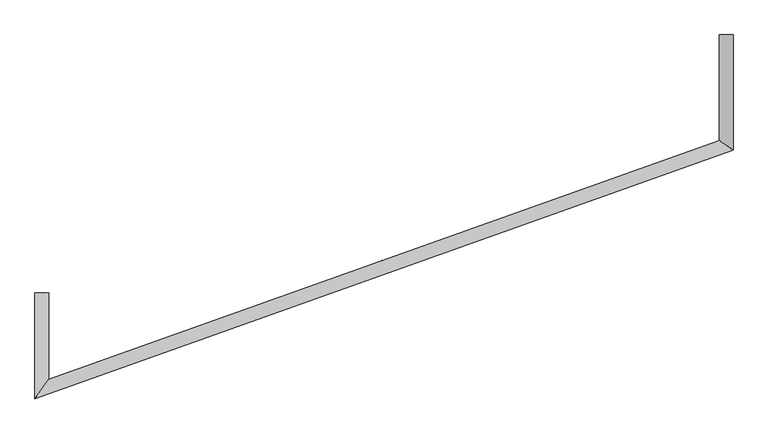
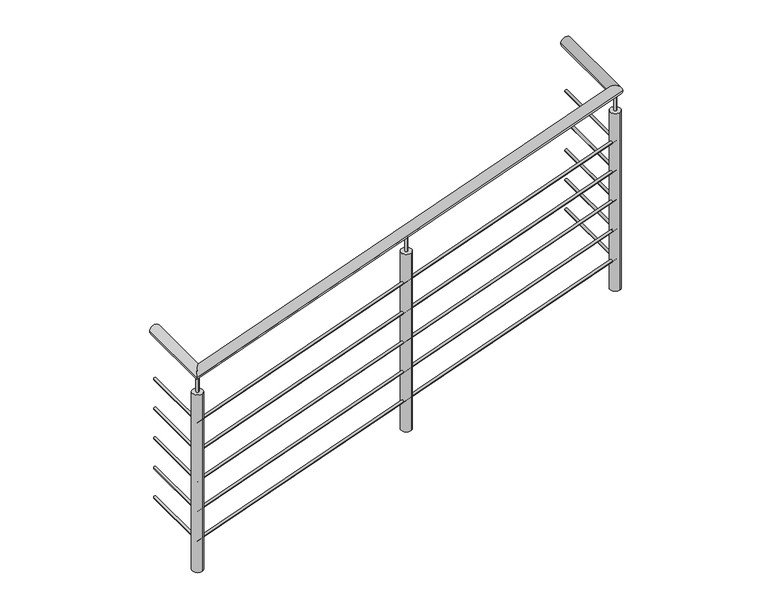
"""IFC4 building model written with IfcOpenShell, lengths in millimetres: railing geometry, Barandal general 2 sin inicio."""

from ifc_helpers import new_model, si_unit, point, frame, frame_2d, origin, place, context, project, spatial, circle_curve, ellipse_curve, trimmed, segment, composite_curve, outline, extrude, source, transform, mapped, element, save
from ifc_brep_helpers import plane_surface, cylinder_surface, advanced_brep


def railing_e85b9a55(model_context):
    return source(origin(), model_context, "Body", "SolidModel", [
        advanced_brep(
        [(39004.1057586, 22857.0021633, 10000.0), (39054.9057586, 22857.0021633, 10000.0), (39054.9057586, 22431.9822302, 10000.0), (39004.1057586, 22467.808589, 10000.0), (36484.1300226, 21515.8771439, 10000.0), (36534.9300226, 21587.9090245, 10000.0), (36534.9300226, 21905.5468038, 10000.0), (36484.1300226, 21905.5468038, 10000.0)],
        [
            (0, 1, circle_curve(frame((39029.5057586, 22857.0021633, 10000.0), z_axis=(0.0, 1.0, 0.0), x_axis=(1.0, 0.0, 0.0)), 25.4)),
            (1, 0, circle_curve(frame((39029.5057586, 22857.0021633, 10000.0), z_axis=(0.0, 1.0, 0.0), x_axis=(1.0, 0.0, 0.0)), 25.4)),
            (1, 2),
            (2, 3, ellipse_curve(frame((39029.5057586, 22449.8954096, 10000.0), z_axis=(0.5763345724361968, 0.8172138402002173, 0.0), x_axis=(-0.8172138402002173, 0.5763345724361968, 0.0)), 31.0812161, 25.4)),
            (3, 0),
            (3, 2, ellipse_curve(frame((39029.5057586, 22449.8954096, 10000.0), z_axis=(0.5763345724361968, 0.8172138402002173, 0.0), x_axis=(-0.8172138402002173, 0.5763345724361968, 0.0)), 31.0812161, 25.4)),
            (2, 4),
            (4, 5, ellipse_curve(frame((36509.5300226, 21551.8930842, 10000.0), z_axis=(0.8172138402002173, -0.5763345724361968, 0.0), x_axis=(0.5763345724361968, 0.8172138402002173, 0.0)), 44.071623, 25.4)),
            (5, 3),
            (5, 4, ellipse_curve(frame((36509.5300226, 21551.8930842, 10000.0), z_axis=(0.8172138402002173, -0.5763345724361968, 0.0), x_axis=(0.5763345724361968, 0.8172138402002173, 0.0)), 44.071623, 25.4)),
            (6, 7, circle_curve(frame((36509.5300226, 21905.5468038, 10000.0), z_axis=(0.0, 1.0, 0.0), x_axis=(-1.0, 0.0, 0.0)), 25.4)),
            (7, 6, circle_curve(frame((36509.5300226, 21905.5468038, 10000.0), z_axis=(0.0, 1.0, 0.0), x_axis=(-1.0, 0.0, 0.0)), 25.4)),
            (4, 7),
            (6, 5),
        ],
        [
            plane_surface(frame((39029.5057586, 22857.0021633, 10000.0), z_axis=(0.0, 1.0, 0.0), x_axis=(0.0, 0.0, -1.0))),
            cylinder_surface(frame((39029.5057586, 22857.0021633, 10000.0), z_axis=(0.0, 1.0, 0.0), x_axis=(1.0, 0.0, 0.0)), 25.4),
            cylinder_surface(frame((39029.5057586, 22449.8954096, 10000.0), z_axis=(0.9419771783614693, 0.33567692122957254, 0.0), x_axis=(0.33567692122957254, -0.9419771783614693, 0.0)), 25.4),
            plane_surface(frame((36509.5300226, 21905.5468038, 10000.0), z_axis=(0.0, 1.0, 0.0), x_axis=(0.0, 0.0, 1.0))),
            cylinder_surface(frame((36509.5300226, 21551.8930842, 10000.0), z_axis=(0.0, -1.0, 0.0), x_axis=(-1.0, 0.0, 0.0)), 25.4),
        ],
        [
            (0, [[1, 2]]),
            (1, [[-2, 3, 4, 5]]),
            (1, [[-1, -5, 6, -3]]),
            (2, [[-4, 7, 8, 9]]),
            (2, [[-6, -9, 10, -7]]),
            (3, [[11, 12]]),
            (4, [[-8, 13, -11, 14]]),
            (4, [[-10, -14, -12, -13]]),
        ],
    ),
        advanced_brep(
        [(39023.1557586, 22857.0021633, 9750.0), (39035.8557586, 22857.0021633, 9750.0), (39035.8557586, 22445.4171147, 9750.0), (39023.1557586, 22454.3737044, 9750.0), (36503.1800226, 21542.8890991, 9750.0), (36515.8800226, 21560.8970693, 9750.0), (36515.8800226, 21905.5468038, 9750.0), (36503.1800226, 21905.5468038, 9750.0)],
        [
            (0, 1, circle_curve(frame((39029.5057586, 22857.0021633, 9750.0), z_axis=(0.0, 1.0, 0.0), x_axis=(1.0, 0.0, 0.0)), 6.35)),
            (1, 0, circle_curve(frame((39029.5057586, 22857.0021633, 9750.0), z_axis=(0.0, 1.0, 0.0), x_axis=(1.0, 0.0, 0.0)), 6.35)),
            (1, 2),
            (2, 3, ellipse_curve(frame((39029.5057586, 22449.8954096, 9750.0), z_axis=(0.5763345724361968, 0.8172138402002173, 0.0), x_axis=(-0.8172138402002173, 0.5763345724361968, 0.0)), 7.770304, 6.35)),
            (3, 0),
            (3, 2, ellipse_curve(frame((39029.5057586, 22449.8954096, 9750.0), z_axis=(0.5763345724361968, 0.8172138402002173, 0.0), x_axis=(-0.8172138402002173, 0.5763345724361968, 0.0)), 7.770304, 6.35)),
            (2, 4),
            (4, 5, ellipse_curve(frame((36509.5300226, 21551.8930842, 9750.0), z_axis=(0.8172138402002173, -0.5763345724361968, 0.0), x_axis=(0.5763345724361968, 0.8172138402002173, 0.0)), 11.0179058, 6.35)),
            (5, 3),
            (5, 4, ellipse_curve(frame((36509.5300226, 21551.8930842, 9750.0), z_axis=(0.8172138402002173, -0.5763345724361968, 0.0), x_axis=(0.5763345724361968, 0.8172138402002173, 0.0)), 11.0179058, 6.35)),
            (6, 7, circle_curve(frame((36509.5300226, 21905.5468038, 9750.0), z_axis=(0.0, 1.0, 0.0), x_axis=(-1.0, 0.0, 0.0)), 6.35)),
            (7, 6, circle_curve(frame((36509.5300226, 21905.5468038, 9750.0), z_axis=(0.0, 1.0, 0.0), x_axis=(-1.0, 0.0, 0.0)), 6.35)),
            (4, 7),
            (6, 5),
        ],
        [
            plane_surface(frame((39029.5057586, 22857.0021633, 9750.0), z_axis=(0.0, 1.0, 0.0), x_axis=(0.0, 0.0, -1.0))),
            cylinder_surface(frame((39029.5057586, 22857.0021633, 9750.0), z_axis=(0.0, 1.0, 0.0), x_axis=(1.0, 0.0, 0.0)), 6.35),
            cylinder_surface(frame((39029.5057586, 22449.8954096, 9750.0), z_axis=(0.9419771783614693, 0.33567692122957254, 0.0), x_axis=(0.33567692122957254, -0.9419771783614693, 0.0)), 6.35),
            plane_surface(frame((36509.5300226, 21905.5468038, 9750.0), z_axis=(0.0, 1.0, 0.0), x_axis=(0.0, 0.0, 1.0))),
            cylinder_surface(frame((36509.5300226, 21551.8930842, 9750.0), z_axis=(0.0, -1.0, 0.0), x_axis=(-1.0, 0.0, 0.0)), 6.35),
        ],
        [
            (0, [[1, 2]]),
            (1, [[-2, 3, 4, 5]]),
            (1, [[-1, -5, 6, -3]]),
            (2, [[-4, 7, 8, 9]]),
            (2, [[-6, -9, 10, -7]]),
            (3, [[11, 12]]),
            (4, [[-8, 13, -11, 14]]),
            (4, [[-10, -14, -12, -13]]),
        ],
    ),
        advanced_brep(
        [(39023.1557586, 22857.0021633, 9600.0), (39035.8557586, 22857.0021633, 9600.0), (39035.8557586, 22445.4171147, 9600.0), (39023.1557586, 22454.3737044, 9600.0), (36503.1800226, 21542.8890991, 9600.0), (36515.8800226, 21560.8970693, 9600.0), (36515.8800226, 21905.5468038, 9600.0), (36503.1800226, 21905.5468038, 9600.0)],
        [
            (0, 1, circle_curve(frame((39029.5057586, 22857.0021633, 9600.0), z_axis=(0.0, 1.0, 0.0), x_axis=(1.0, 0.0, 0.0)), 6.35)),
            (1, 0, circle_curve(frame((39029.5057586, 22857.0021633, 9600.0), z_axis=(0.0, 1.0, 0.0), x_axis=(1.0, 0.0, 0.0)), 6.35)),
            (1, 2),
            (2, 3, ellipse_curve(frame((39029.5057586, 22449.8954096, 9600.0), z_axis=(0.5763345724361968, 0.8172138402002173, 0.0), x_axis=(-0.8172138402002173, 0.5763345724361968, 0.0)), 7.770304, 6.35)),
            (3, 0),
            (3, 2, ellipse_curve(frame((39029.5057586, 22449.8954096, 9600.0), z_axis=(0.5763345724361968, 0.8172138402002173, 0.0), x_axis=(-0.8172138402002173, 0.5763345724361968, 0.0)), 7.770304, 6.35)),
            (2, 4),
            (4, 5, ellipse_curve(frame((36509.5300226, 21551.8930842, 9600.0), z_axis=(0.8172138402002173, -0.5763345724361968, 0.0), x_axis=(0.5763345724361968, 0.8172138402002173, 0.0)), 11.0179058, 6.35)),
            (5, 3),
            (5, 4, ellipse_curve(frame((36509.5300226, 21551.8930842, 9600.0), z_axis=(0.8172138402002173, -0.5763345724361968, 0.0), x_axis=(0.5763345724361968, 0.8172138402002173, 0.0)), 11.0179058, 6.35)),
            (6, 7, circle_curve(frame((36509.5300226, 21905.5468038, 9600.0), z_axis=(0.0, 1.0, 0.0), x_axis=(-1.0, 0.0, 0.0)), 6.35)),
            (7, 6, circle_curve(frame((36509.5300226, 21905.5468038, 9600.0), z_axis=(0.0, 1.0, 0.0), x_axis=(-1.0, 0.0, 0.0)), 6.35)),
            (4, 7),
            (6, 5),
        ],
        [
            plane_surface(frame((39029.5057586, 22857.0021633, 9600.0), z_axis=(0.0, 1.0, 0.0), x_axis=(0.0, 0.0, -1.0))),
            cylinder_surface(frame((39029.5057586, 22857.0021633, 9600.0), z_axis=(0.0, 1.0, 0.0), x_axis=(1.0, 0.0, 0.0)), 6.35),
            cylinder_surface(frame((39029.5057586, 22449.8954096, 9600.0), z_axis=(0.9419771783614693, 0.33567692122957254, 0.0), x_axis=(0.33567692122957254, -0.9419771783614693, 0.0)), 6.35),
            plane_surface(frame((36509.5300226, 21905.5468038, 9600.0), z_axis=(0.0, 1.0, 0.0), x_axis=(0.0, 0.0, 1.0))),
            cylinder_surface(frame((36509.5300226, 21551.8930842, 9600.0), z_axis=(0.0, -1.0, 0.0), x_axis=(-1.0, 0.0, 0.0)), 6.35),
        ],
        [
            (0, [[1, 2]]),
            (1, [[-2, 3, 4, 5]]),
            (1, [[-1, -5, 6, -3]]),
            (2, [[-4, 7, 8, 9]]),
            (2, [[-6, -9, 10, -7]]),
            (3, [[11, 12]]),
            (4, [[-8, 13, -11, 14]]),
            (4, [[-10, -14, -12, -13]]),
        ],
    ),
        advanced_brep(
        [(39023.1557586, 22857.0021633, 9450.0), (39035.8557586, 22857.0021633, 9450.0), (39035.8557586, 22445.4171147, 9450.0), (39023.1557586, 22454.3737044, 9450.0), (36503.1800226, 21542.8890991, 9450.0), (36515.8800226, 21560.8970693, 9450.0), (36515.8800226, 21905.5468038, 9450.0), (36503.1800226, 21905.5468038, 9450.0)],
        [
            (0, 1, circle_curve(frame((39029.5057586, 22857.0021633, 9450.0), z_axis=(0.0, 1.0, 0.0), x_axis=(1.0, 0.0, 0.0)), 6.35)),
            (1, 0, circle_curve(frame((39029.5057586, 22857.0021633, 9450.0), z_axis=(0.0, 1.0, 0.0), x_axis=(1.0, 0.0, 0.0)), 6.35)),
            (1, 2),
            (2, 3, ellipse_curve(frame((39029.5057586, 22449.8954096, 9450.0), z_axis=(0.5763345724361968, 0.8172138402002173, 0.0), x_axis=(-0.8172138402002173, 0.5763345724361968, 0.0)), 7.770304, 6.35)),
            (3, 0),
            (3, 2, ellipse_curve(frame((39029.5057586, 22449.8954096, 9450.0), z_axis=(0.5763345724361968, 0.8172138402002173, 0.0), x_axis=(-0.8172138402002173, 0.5763345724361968, 0.0)), 7.770304, 6.35)),
            (2, 4),
            (4, 5, ellipse_curve(frame((36509.5300226, 21551.8930842, 9450.0), z_axis=(0.8172138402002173, -0.5763345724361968, 0.0), x_axis=(0.5763345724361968, 0.8172138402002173, 0.0)), 11.0179058, 6.35)),
            (5, 3),
            (5, 4, ellipse_curve(frame((36509.5300226, 21551.8930842, 9450.0), z_axis=(0.8172138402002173, -0.5763345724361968, 0.0), x_axis=(0.5763345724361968, 0.8172138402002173, 0.0)), 11.0179058, 6.35)),
            (6, 7, circle_curve(frame((36509.5300226, 21905.5468038, 9450.0), z_axis=(0.0, 1.0, 0.0), x_axis=(-1.0, 0.0, 0.0)), 6.35)),
            (7, 6, circle_curve(frame((36509.5300226, 21905.5468038, 9450.0), z_axis=(0.0, 1.0, 0.0), x_axis=(-1.0, 0.0, 0.0)), 6.35)),
            (4, 7),
            (6, 5),
        ],
        [
            plane_surface(frame((39029.5057586, 22857.0021633, 9450.0), z_axis=(0.0, 1.0, 0.0), x_axis=(0.0, 0.0, -1.0))),
            cylinder_surface(frame((39029.5057586, 22857.0021633, 9450.0), z_axis=(0.0, 1.0, 0.0), x_axis=(1.0, 0.0, 0.0)), 6.35),
            cylinder_surface(frame((39029.5057586, 22449.8954096, 9450.0), z_axis=(0.9419771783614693, 0.33567692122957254, 0.0), x_axis=(0.33567692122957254, -0.9419771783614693, 0.0)), 6.35),
            plane_surface(frame((36509.5300226, 21905.5468038, 9450.0), z_axis=(0.0, 1.0, 0.0), x_axis=(0.0, 0.0, 1.0))),
            cylinder_surface(frame((36509.5300226, 21551.8930842, 9450.0), z_axis=(0.0, -1.0, 0.0), x_axis=(-1.0, 0.0, 0.0)), 6.35),
        ],
        [
            (0, [[1, 2]]),
            (1, [[-2, 3, 4, 5]]),
            (1, [[-1, -5, 6, -3]]),
            (2, [[-4, 7, 8, 9]]),
            (2, [[-6, -9, 10, -7]]),
            (3, [[11, 12]]),
            (4, [[-8, 13, -11, 14]]),
            (4, [[-10, -14, -12, -13]]),
        ],
    ),
        advanced_brep(
        [(39023.1557586, 22857.0021633, 9300.0), (39035.8557586, 22857.0021633, 9300.0), (39035.8557586, 22445.4171147, 9300.0), (39023.1557586, 22454.3737044, 9300.0), (36503.1800226, 21542.8890991, 9300.0), (36515.8800226, 21560.8970693, 9300.0), (36515.8800226, 21905.5468038, 9300.0), (36503.1800226, 21905.5468038, 9300.0)],
        [
            (0, 1, circle_curve(frame((39029.5057586, 22857.0021633, 9300.0), z_axis=(0.0, 1.0, 0.0), x_axis=(1.0, 0.0, 0.0)), 6.35)),
            (1, 0, circle_curve(frame((39029.5057586, 22857.0021633, 9300.0), z_axis=(0.0, 1.0, 0.0), x_axis=(1.0, 0.0, 0.0)), 6.35)),
            (1, 2),
            (2, 3, ellipse_curve(frame((39029.5057586, 22449.8954096, 9300.0), z_axis=(0.5763345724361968, 0.8172138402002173, 0.0), x_axis=(-0.8172138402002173, 0.5763345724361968, 0.0)), 7.770304, 6.35)),
            (3, 0),
            (3, 2, ellipse_curve(frame((39029.5057586, 22449.8954096, 9300.0), z_axis=(0.5763345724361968, 0.8172138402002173, 0.0), x_axis=(-0.8172138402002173, 0.5763345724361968, 0.0)), 7.770304, 6.35)),
            (2, 4),
            (4, 5, ellipse_curve(frame((36509.5300226, 21551.8930842, 9300.0), z_axis=(0.8172138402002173, -0.5763345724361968, 0.0), x_axis=(0.5763345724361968, 0.8172138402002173, 0.0)), 11.0179058, 6.35)),
            (5, 3),
            (5, 4, ellipse_curve(frame((36509.5300226, 21551.8930842, 9300.0), z_axis=(0.8172138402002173, -0.5763345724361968, 0.0), x_axis=(0.5763345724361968, 0.8172138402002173, 0.0)), 11.0179058, 6.35)),
            (6, 7, circle_curve(frame((36509.5300226, 21905.5468038, 9300.0), z_axis=(0.0, 1.0, 0.0), x_axis=(-1.0, 0.0, 0.0)), 6.35)),
            (7, 6, circle_curve(frame((36509.5300226, 21905.5468038, 9300.0), z_axis=(0.0, 1.0, 0.0), x_axis=(-1.0, 0.0, 0.0)), 6.35)),
            (4, 7),
            (6, 5),
        ],
        [
            plane_surface(frame((39029.5057586, 22857.0021633, 9300.0), z_axis=(0.0, 1.0, 0.0), x_axis=(0.0, 0.0, -1.0))),
            cylinder_surface(frame((39029.5057586, 22857.0021633, 9300.0), z_axis=(0.0, 1.0, 0.0), x_axis=(1.0, 0.0, 0.0)), 6.35),
            cylinder_surface(frame((39029.5057586, 22449.8954096, 9300.0), z_axis=(0.9419771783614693, 0.33567692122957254, 0.0), x_axis=(0.33567692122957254, -0.9419771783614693, 0.0)), 6.35),
            plane_surface(frame((36509.5300226, 21905.5468038, 9300.0), z_axis=(0.0, 1.0, 0.0), x_axis=(0.0, 0.0, 1.0))),
            cylinder_surface(frame((36509.5300226, 21551.8930842, 9300.0), z_axis=(0.0, -1.0, 0.0), x_axis=(-1.0, 0.0, 0.0)), 6.35),
        ],
        [
            (0, [[1, 2]]),
            (1, [[-2, 3, 4, 5]]),
            (1, [[-1, -5, 6, -3]]),
            (2, [[-4, 7, 8, 9]]),
            (2, [[-6, -9, 10, -7]]),
            (3, [[11, 12]]),
            (4, [[-8, 13, -11, 14]]),
            (4, [[-10, -14, -12, -13]]),
        ],
    ),
        advanced_brep(
        [(39023.1557586, 22857.0021633, 9150.0), (39035.8557586, 22857.0021633, 9150.0), (39035.8557586, 22445.4171147, 9150.0), (39023.1557586, 22454.3737044, 9150.0), (36503.1800226, 21542.8890991, 9150.0), (36515.8800226, 21560.8970693, 9150.0), (36515.8800226, 21905.5468038, 9150.0), (36503.1800226, 21905.5468038, 9150.0)],
        [
            (0, 1, circle_curve(frame((39029.5057586, 22857.0021633, 9150.0), z_axis=(0.0, 1.0, 0.0), x_axis=(1.0, 0.0, 0.0)), 6.35)),
            (1, 0, circle_curve(frame((39029.5057586, 22857.0021633, 9150.0), z_axis=(0.0, 1.0, 0.0), x_axis=(1.0, 0.0, 0.0)), 6.35)),
            (1, 2),
            (2, 3, ellipse_curve(frame((39029.5057586, 22449.8954096, 9150.0), z_axis=(0.5763345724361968, 0.8172138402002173, 0.0), x_axis=(-0.8172138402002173, 0.5763345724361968, 0.0)), 7.770304, 6.35)),
            (3, 0),
            (3, 2, ellipse_curve(frame((39029.5057586, 22449.8954096, 9150.0), z_axis=(0.5763345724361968, 0.8172138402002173, 0.0), x_axis=(-0.8172138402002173, 0.5763345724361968, 0.0)), 7.770304, 6.35)),
            (2, 4),
            (4, 5, ellipse_curve(frame((36509.5300226, 21551.8930842, 9150.0), z_axis=(0.8172138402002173, -0.5763345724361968, 0.0), x_axis=(0.5763345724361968, 0.8172138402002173, 0.0)), 11.0179058, 6.35)),
            (5, 3),
            (5, 4, ellipse_curve(frame((36509.5300226, 21551.8930842, 9150.0), z_axis=(0.8172138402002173, -0.5763345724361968, 0.0), x_axis=(0.5763345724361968, 0.8172138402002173, 0.0)), 11.0179058, 6.35)),
            (6, 7, circle_curve(frame((36509.5300226, 21905.5468038, 9150.0), z_axis=(0.0, 1.0, 0.0), x_axis=(-1.0, 0.0, 0.0)), 6.35)),
            (7, 6, circle_curve(frame((36509.5300226, 21905.5468038, 9150.0), z_axis=(0.0, 1.0, 0.0), x_axis=(-1.0, 0.0, 0.0)), 6.35)),
            (4, 7),
            (6, 5),
        ],
        [
            plane_surface(frame((39029.5057586, 22857.0021633, 9150.0), z_axis=(0.0, 1.0, 0.0), x_axis=(0.0, 0.0, -1.0))),
            cylinder_surface(frame((39029.5057586, 22857.0021633, 9150.0), z_axis=(0.0, 1.0, 0.0), x_axis=(1.0, 0.0, 0.0)), 6.35),
            cylinder_surface(frame((39029.5057586, 22449.8954096, 9150.0), z_axis=(0.9419771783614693, 0.33567692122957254, 0.0), x_axis=(0.33567692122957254, -0.9419771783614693, 0.0)), 6.35),
            plane_surface(frame((36509.5300226, 21905.5468038, 9150.0), z_axis=(0.0, 1.0, 0.0), x_axis=(0.0, 0.0, 1.0))),
            cylinder_surface(frame((36509.5300226, 21551.8930842, 9150.0), z_axis=(0.0, -1.0, 0.0), x_axis=(-1.0, 0.0, 0.0)), 6.35),
        ],
        [
            (0, [[1, 2]]),
            (1, [[-2, 3, 4, 5]]),
            (1, [[-1, -5, 6, -3]]),
            (2, [[-4, 7, 8, 9]]),
            (2, [[-6, -9, 10, -7]]),
            (3, [[11, 12]]),
            (4, [[-8, 13, -11, 14]]),
            (4, [[-10, -14, -12, -13]]),
        ],
    ),
        extrude(outline(composite_curve([segment(trimmed(circle_curve(frame_2d((36509.5300226, 21551.8930842)), 6.35), [point((36511.661571, 21545.9115291))], [point((36507.3984741, 21557.8746393))], False, "CARTESIAN"), True, "CONTINUOUS"), segment(trimmed(circle_curve(frame_2d((36509.5300226, 21551.8930842)), 6.35), [point((36507.3984741, 21557.8746393))], [point((36511.661571, 21545.9115291))], False, "CARTESIAN"), True, "CONTINUOUS")], self_intersect=False)), frame((0.0, 0.0, 9899.6), z_axis=(0.0, 0.0, 1.0), x_axis=(1.0, 0.0, 0.0)), (0.0, 0.0, 1.0), 75.0),
        extrude(outline(composite_curve([segment(trimmed(circle_curve(frame_2d((36509.5300226, 21551.8930842)), 25.4), [point((36518.0562164, 21527.9668639))], [point((36501.0038288, 21575.8193045))], False, "CARTESIAN"), True, "CONTINUOUS"), segment(trimmed(circle_curve(frame_2d((36509.5300226, 21551.8930842)), 25.4), [point((36501.0038288, 21575.8193045))], [point((36518.0562164, 21527.9668639))], False, "CARTESIAN"), True, "CONTINUOUS")], self_intersect=False)), frame((0.0, 0.0, 9000.0), z_axis=(0.0, 0.0, 1.0), x_axis=(1.0, 0.0, 0.0)), (0.0, 0.0, 1.0), 899.6),
        extrude(outline(composite_curve([segment(trimmed(circle_curve(frame_2d((37769.5178906, 22000.8942469)), 6.35), [point((37771.649439, 21994.9126918))], [point((37767.3863421, 22006.875802))], False, "CARTESIAN"), True, "CONTINUOUS"), segment(trimmed(circle_curve(frame_2d((37769.5178906, 22000.8942469)), 6.35), [point((37767.3863421, 22006.875802))], [point((37771.649439, 21994.9126918))], False, "CARTESIAN"), True, "CONTINUOUS")], self_intersect=False)), frame((0.0, 0.0, 9899.6), z_axis=(0.0, 0.0, 1.0), x_axis=(1.0, 0.0, 0.0)), (0.0, 0.0, 1.0), 75.0),
        extrude(outline(composite_curve([segment(trimmed(circle_curve(frame_2d((37769.5178906, 22000.8942469)), 25.4), [point((37778.0440844, 21976.9680266))], [point((37760.9916968, 22024.8204672))], False, "CARTESIAN"), True, "CONTINUOUS"), segment(trimmed(circle_curve(frame_2d((37769.5178906, 22000.8942469)), 25.4), [point((37760.9916968, 22024.8204672))], [point((37778.0440844, 21976.9680266))], False, "CARTESIAN"), True, "CONTINUOUS")], self_intersect=False)), frame((0.0, 0.0, 9000.0), z_axis=(0.0, 0.0, 1.0), x_axis=(1.0, 0.0, 0.0)), (0.0, 0.0, 1.0), 899.6),
        extrude(outline(composite_curve([segment(trimmed(circle_curve(frame_2d((39029.5057586, 22449.8954096)), 6.35), [point((39031.637307, 22443.9138545))], [point((39027.3742101, 22455.8769647))], False, "CARTESIAN"), True, "CONTINUOUS"), segment(trimmed(circle_curve(frame_2d((39029.5057586, 22449.8954096)), 6.35), [point((39027.3742101, 22455.8769647))], [point((39031.637307, 22443.9138545))], False, "CARTESIAN"), True, "CONTINUOUS")], self_intersect=False)), frame((0.0, 0.0, 9899.6), z_axis=(0.0, 0.0, 1.0), x_axis=(1.0, 0.0, 0.0)), (0.0, 0.0, 1.0), 75.0),
        extrude(outline(composite_curve([segment(trimmed(circle_curve(frame_2d((39029.5057586, 22449.8954096)), 25.4), [point((39038.0319524, 22425.9691892))], [point((39020.9795648, 22473.8216299))], False, "CARTESIAN"), True, "CONTINUOUS"), segment(trimmed(circle_curve(frame_2d((39029.5057586, 22449.8954096)), 25.4), [point((39020.9795648, 22473.8216299))], [point((39038.0319524, 22425.9691892))], False, "CARTESIAN"), True, "CONTINUOUS")], self_intersect=False)), frame((0.0, 0.0, 9000.0), z_axis=(0.0, 0.0, 1.0), x_axis=(1.0, 0.0, 0.0)), (0.0, 0.0, 1.0), 899.6),
    ])


if __name__ == "__main__":
    model = new_model("IFC4")
    model_context = context("Model", 3, world=origin())
    ifc_project = project(units=[si_unit("LENGTHUNIT", "METRE", prefix="MILLI")], contexts=[model_context])
    site = spatial("IfcSite", under=ifc_project)
    building = spatial("IfcBuilding", under=site)
    placement = place(None, origin())
    railing_shape = railing_e85b9a55(model_context)
    element("IfcRailing", 1, ObjectType="Barandal general 2 sin inicio", at=placement, inside=building, context=model_context, shape_type="MappedRepresentation", body=[
        mapped(railing_shape, transform((0.0, 0.0, 0.0), x_axis=(1.0, 0.0, 0.0), y_axis=(0.0, 1.0, 0.0), z_axis=(0.0, 0.0, 1.0))),
    ])
    save(model, "model.ifc")
